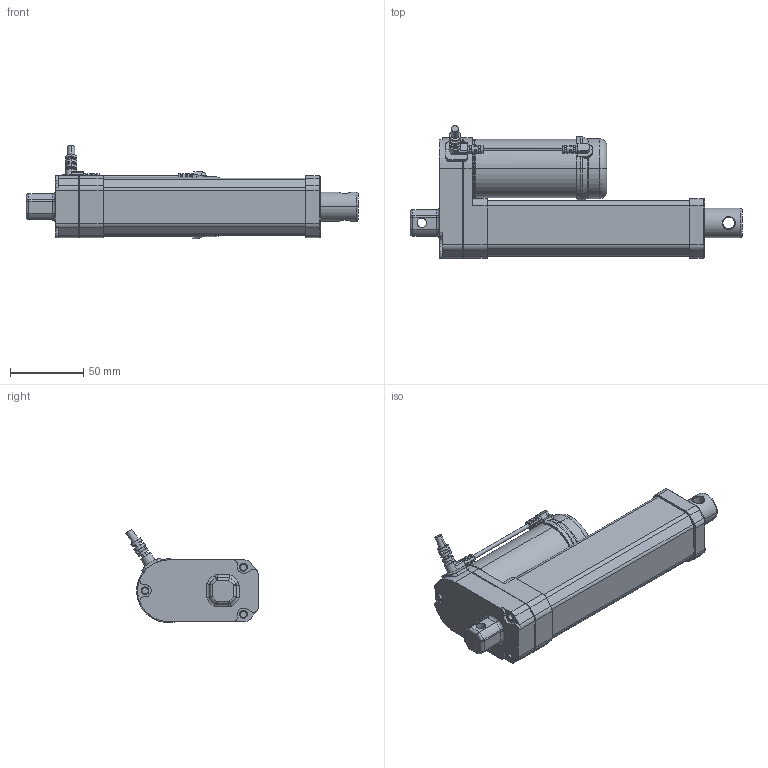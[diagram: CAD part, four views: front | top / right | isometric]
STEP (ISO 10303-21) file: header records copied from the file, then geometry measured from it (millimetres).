
FILE_DESCRIPTION((''),' ');
FILE_NAME('dszy11_100_hs2.stp',' ',('r'),('r'),' ','ACIS 14.0',' ');
FILE_SCHEMA(('automotive_design'));
Length unit declared in the file: inch
Products named in the file (3): DSZY11-HS2-100
Bounding box: 226 x 90.06 x 63.59 mm (x, y, z)
Volume: 253786.1 mm3; surface area: 92788.4 mm2
Topology: 3 solids, 3 shells, 466 faces, 1239 edges, 804 vertices
Faces by surface type: plane 213, cylinder 175, torus 41, cone 23, bspline 10, sphere 4
Entity records: 18855 total; most frequent: CARTESIAN_POINT 3102, DIRECTION 2630, ORIENTED_EDGE 2466, EDGE_CURVE 1233, AXIS2_PLACEMENT_3D 1011, VERTEX_POINT 804, LINE 608, VECTOR 608
